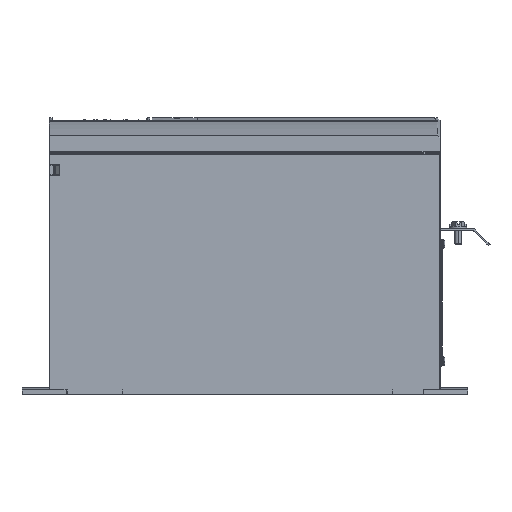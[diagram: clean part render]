
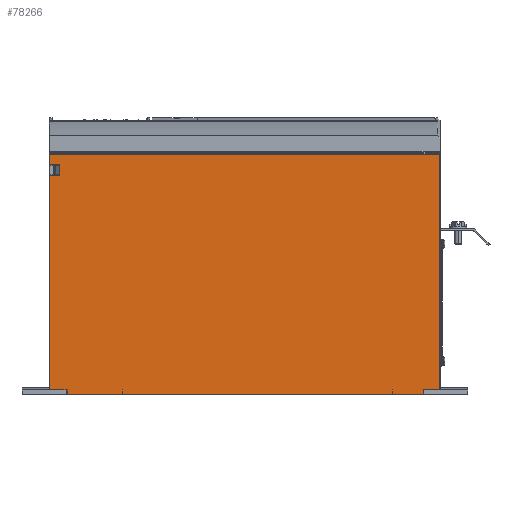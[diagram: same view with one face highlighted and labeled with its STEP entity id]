
A CAD part, left-side view. The second image highlights one B-rep face of the part: STEP entity #78266.
In plain terms, the highlighted planar face has unit normal (-1, 0, 0).
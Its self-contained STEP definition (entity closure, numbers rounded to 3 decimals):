
#2523=DIRECTION('',(0.,0.,1.));
#2524=VECTOR('',#2523,210.882);
#2525=CARTESIAN_POINT('',(-82.5,-174.5,3.768));
#2526=LINE('',#2525,#2524);
#2574=DIRECTION('',(0.,-1.,0.));
#2575=VECTOR('',#2574,14.95);
#2576=CARTESIAN_POINT('',(-82.5,-159.55,3.768));
#2577=LINE('',#2576,#2575);
#19614=DIRECTION('',(0.,-1.,0.));
#19615=VECTOR('',#19614,14.68);
#19616=CARTESIAN_POINT('',(-82.493,174.75,3.769));
#19617=LINE('',#19616,#19615);
#19628=DIRECTION('',(0.,0.,-1.));
#19629=VECTOR('',#19628,192.181);
#19630=CARTESIAN_POINT('',(-82.5,174.75,195.95));
#19631=LINE('',#19630,#19629);
#19807=DIRECTION('',(0.,-1.,0.));
#19808=VECTOR('',#19807,8.146);
#19809=CARTESIAN_POINT('',(-82.5,174.75,205.45));
#19810=LINE('',#19809,#19808);
#19853=DIRECTION('',(0.,0.,-1.));
#19854=VECTOR('',#19853,9.2);
#19855=CARTESIAN_POINT('',(-82.5,174.75,214.65));
#19856=LINE('',#19855,#19854);
#19891=DIRECTION('',(0.,1.,0.));
#19892=VECTOR('',#19891,349.25);
#19893=CARTESIAN_POINT('',(-82.5,-174.5,214.65));
#19894=LINE('',#19893,#19892);
#19978=CARTESIAN_POINT('',(-82.5,165.896,
204.95));
#19979=CARTESIAN_POINT('',(-82.5,165.896,
204.988));
#19980=CARTESIAN_POINT('',(-82.5,165.908,
205.064));
#19981=CARTESIAN_POINT('',(-82.5,165.967,
205.179));
#19982=CARTESIAN_POINT('',(-82.5,166.069,
205.285));
#19983=CARTESIAN_POINT('',(-82.5,166.209,
205.372));
#19984=CARTESIAN_POINT('',(-82.5,166.388,
205.433));
#19985=CARTESIAN_POINT('',(-82.5,166.528,
205.45));
#19986=CARTESIAN_POINT('',(-82.5,166.604,205.45));
#19991=DIRECTION('',(0.,0.,-1.));
#19992=VECTOR('',#19991,3.768);
#19993=CARTESIAN_POINT('',(-82.5,-159.55,3.768));
#19994=LINE('',#19993,#19992);
#19998=DIRECTION('',(0.,1.,0.));
#19999=VECTOR('',#19998,26.961);
#20000=CARTESIAN_POINT('',(-82.5,-159.55,0.));
#20001=LINE('',#20000,#19999);
#20005=DIRECTION('',(0.,0.,-1.));
#20006=VECTOR('',#20005,3.768);
#20007=CARTESIAN_POINT('',(-82.5,109.589,3.768));
#20008=LINE('',#20007,#20006);
#20012=DIRECTION('',(0.,1.,0.));
#20013=VECTOR('',#20012,49.567);
#20014=CARTESIAN_POINT('',(-82.5,109.589,0.));
#20015=LINE('',#20014,#20013);
#20026=DIRECTION('',(0.,0.,-1.));
#20027=VECTOR('',#20026,8.5);
#20028=CARTESIAN_POINT('',(-82.5,165.896,
204.95));
#20029=LINE('',#20028,#20027);
#20102=CARTESIAN_POINT('',(-82.5,165.896,
196.45));
#20103=CARTESIAN_POINT('',(-82.5,165.896,
196.413));
#20104=CARTESIAN_POINT('',(-82.5,165.908,
196.339));
#20105=CARTESIAN_POINT('',(-82.5,165.965,
196.223));
#20106=CARTESIAN_POINT('',(-82.5,166.066,
196.117));
#20107=CARTESIAN_POINT('',(-82.5,166.207,
196.029));
#20108=CARTESIAN_POINT('',(-82.5,166.385,
195.967));
#20109=CARTESIAN_POINT('',(-82.5,166.527,
195.95));
#20110=CARTESIAN_POINT('',(-82.5,166.604,195.95));
#20115=DIRECTION('',(0.,1.,0.));
#20116=VECTOR('',#20115,8.146);
#20117=CARTESIAN_POINT('',(-82.5,166.604,195.95));
#20118=LINE('',#20117,#20116);
#20601=DIRECTION('',(-0.011,-1.,0.));
#20602=VECTOR('',#20601,0.914);
#20603=CARTESIAN_POINT('',(-82.49,160.07,3.769));
#20604=LINE('',#20603,#20602);
#20622=DIRECTION('',(0.,0.,-1.));
#20623=VECTOR('',#20622,3.768);
#20624=CARTESIAN_POINT('',(-82.5,159.156,3.768));
#20625=LINE('',#20624,#20623);
#20713=DIRECTION('',(0.,-1.,0.));
#20714=VECTOR('',#20713,0.5);
#20715=CARTESIAN_POINT('',(-82.5,109.589,3.768));
#20716=LINE('',#20715,#20714);
#20727=DIRECTION('',(0.,-1.,0.));
#20728=VECTOR('',#20727,0.5);
#20729=CARTESIAN_POINT('',(-82.5,-132.089,3.768));
#20730=LINE('',#20729,#20728);
#20776=DIRECTION('',(0.,0.,-1.));
#20777=VECTOR('',#20776,3.775);
#20778=CARTESIAN_POINT('',(-82.5,109.089,3.768));
#20779=LINE('',#20778,#20777);
#20783=DIRECTION('',(0.,-1.,0.));
#20784=VECTOR('',#20783,241.178);
#20785=CARTESIAN_POINT('',(-82.5,109.089,-0.007));
#20786=LINE('',#20785,#20784);
#20811=DIRECTION('',(0.,0.,1.));
#20812=VECTOR('',#20811,3.775);
#20813=CARTESIAN_POINT('',(-82.5,-132.089,-0.007));
#20814=LINE('',#20813,#20812);
#20846=DIRECTION('',(0.,0.,-1.));
#20847=VECTOR('',#20846,3.768);
#20848=CARTESIAN_POINT('',(-82.5,-132.589,3.768));
#20849=LINE('',#20848,#20847);
#54405=CARTESIAN_POINT('',(-82.5,165.896,
204.95));
#54406=CARTESIAN_POINT('',(-82.5,165.896,
196.45));
#54407=VERTEX_POINT('',#54405);
#54408=VERTEX_POINT('',#54406);
#54409=VERTEX_POINT('',#19986);
#54410=CARTESIAN_POINT('',(-82.5,174.75,205.45));
#54411=VERTEX_POINT('',#54410);
#54412=CARTESIAN_POINT('',(-82.5,174.75,214.65));
#54413=VERTEX_POINT('',#54412);
#54414=CARTESIAN_POINT('',(-82.5,-174.5,214.65));
#54415=VERTEX_POINT('',#54414);
#54416=CARTESIAN_POINT('',(-82.5,-174.5,3.768));
#54417=VERTEX_POINT('',#54416);
#54418=CARTESIAN_POINT('',(-82.5,-159.55,3.768));
#54419=VERTEX_POINT('',#54418);
#54420=CARTESIAN_POINT('',(-82.5,-159.55,0.));
#54421=VERTEX_POINT('',#54420);
#54422=CARTESIAN_POINT('',(-82.5,-132.589,0.));
#54423=VERTEX_POINT('',#54422);
#54424=CARTESIAN_POINT('',(-82.5,-132.589,3.768));
#54425=VERTEX_POINT('',#54424);
#54426=CARTESIAN_POINT('',(-82.5,-132.089,3.768));
#54427=VERTEX_POINT('',#54426);
#54428=CARTESIAN_POINT('',(-82.5,-132.089,-0.007));
#54429=VERTEX_POINT('',#54428);
#54430=CARTESIAN_POINT('',(-82.5,109.089,-0.007));
#54431=VERTEX_POINT('',#54430);
#54432=CARTESIAN_POINT('',(-82.5,109.089,3.768));
#54433=VERTEX_POINT('',#54432);
#54434=CARTESIAN_POINT('',(-82.5,109.589,3.768));
#54435=VERTEX_POINT('',#54434);
#54436=CARTESIAN_POINT('',(-82.5,109.589,0.));
#54437=VERTEX_POINT('',#54436);
#54438=CARTESIAN_POINT('',(-82.5,159.156,0.));
#54439=VERTEX_POINT('',#54438);
#54440=CARTESIAN_POINT('',(-82.5,159.156,3.768));
#54441=VERTEX_POINT('',#54440);
#54442=CARTESIAN_POINT('',(-82.5,174.75,195.95));
#54443=CARTESIAN_POINT('',(-82.493,174.75,3.769));
#54444=VERTEX_POINT('',#54442);
#54445=VERTEX_POINT('',#54443);
#54446=CARTESIAN_POINT('',(-82.5,166.604,195.95));
#54447=VERTEX_POINT('',#54446);
#54522=CARTESIAN_POINT('',(-82.49,160.07,3.769));
#54523=VERTEX_POINT('',#54522);
#78220=CARTESIAN_POINT('',(-82.5,-175.,3.768));
#78221=DIRECTION('',(-1.,0.,0.));
#78222=DIRECTION('',(0.,0.,1.));
#78223=AXIS2_PLACEMENT_3D('',#78220,#78221,#78222);
#78224=PLANE('',#78223);
#78226=ORIENTED_EDGE('',*,*,#78225,.F.);
#78228=ORIENTED_EDGE('',*,*,#78227,.T.);
#78229=ORIENTED_EDGE('',*,*,#78092,.F.);
#78230=ORIENTED_EDGE('',*,*,#78121,.F.);
#78231=ORIENTED_EDGE('',*,*,#78148,.F.);
#78232=ORIENTED_EDGE('',*,*,#61797,.F.);
#78233=ORIENTED_EDGE('',*,*,#61828,.F.);
#78235=ORIENTED_EDGE('',*,*,#78234,.T.);
#78237=ORIENTED_EDGE('',*,*,#78236,.T.);
#78239=ORIENTED_EDGE('',*,*,#78238,.F.);
#78241=ORIENTED_EDGE('',*,*,#78240,.F.);
#78243=ORIENTED_EDGE('',*,*,#78242,.F.);
#78245=ORIENTED_EDGE('',*,*,#78244,.F.);
#78247=ORIENTED_EDGE('',*,*,#78246,.F.);
#78249=ORIENTED_EDGE('',*,*,#78248,.F.);
#78251=ORIENTED_EDGE('',*,*,#78250,.T.);
#78253=ORIENTED_EDGE('',*,*,#78252,.T.);
#78255=ORIENTED_EDGE('',*,*,#78254,.F.);
#78257=ORIENTED_EDGE('',*,*,#78256,.F.);
#78258=ORIENTED_EDGE('',*,*,#77898,.F.);
#78259=ORIENTED_EDGE('',*,*,#77921,.F.);
#78261=ORIENTED_EDGE('',*,*,#78260,.F.);
#78263=ORIENTED_EDGE('',*,*,#78262,.F.);
#78264=EDGE_LOOP('',(#78226,#78228,#78229,#78230,#78231,#78232,#78233,#78235,
#78237,#78239,#78241,#78243,#78245,#78247,#78249,#78251,#78253,#78255,#78257,
#78258,#78259,#78261,#78263));
#78265=FACE_OUTER_BOUND('',#78264,.F.);
#19987=B_SPLINE_CURVE_WITH_KNOTS('',3,(#19978,#19979,#19980,#19981,#19982,
#19983,#19984,#19985,#19986),.UNSPECIFIED.,.F.,.F.,(4,1,1,1,1,1,4),(0.,
0.167,0.333,0.5,0.667,0.833,
1.),.UNSPECIFIED.);
#20111=B_SPLINE_CURVE_WITH_KNOTS('',3,(#20102,#20103,#20104,#20105,#20106,
#20107,#20108,#20109,#20110),.UNSPECIFIED.,.F.,.F.,(4,1,1,1,1,1,4),(0.,
0.167,0.333,0.5,0.667,0.833,
1.),.UNSPECIFIED.);
#61797=EDGE_CURVE('',#54417,#54415,#2526,.T.);
#61828=EDGE_CURVE('',#54419,#54417,#2577,.T.);
#77898=EDGE_CURVE('',#54445,#54523,#19617,.T.);
#77921=EDGE_CURVE('',#54444,#54445,#19631,.T.);
#78092=EDGE_CURVE('',#54411,#54409,#19810,.T.);
#78121=EDGE_CURVE('',#54413,#54411,#19856,.T.);
#78148=EDGE_CURVE('',#54415,#54413,#19894,.T.);
#78225=EDGE_CURVE('',#54407,#54408,#20029,.T.);
#78227=EDGE_CURVE('',#54407,#54409,#19987,.T.);
#78234=EDGE_CURVE('',#54419,#54421,#19994,.T.);
#78236=EDGE_CURVE('',#54421,#54423,#20001,.T.);
#78238=EDGE_CURVE('',#54425,#54423,#20849,.T.);
#78240=EDGE_CURVE('',#54427,#54425,#20730,.T.);
#78242=EDGE_CURVE('',#54429,#54427,#20814,.T.);
#78244=EDGE_CURVE('',#54431,#54429,#20786,.T.);
#78246=EDGE_CURVE('',#54433,#54431,#20779,.T.);
#78248=EDGE_CURVE('',#54435,#54433,#20716,.T.);
#78250=EDGE_CURVE('',#54435,#54437,#20008,.T.);
#78252=EDGE_CURVE('',#54437,#54439,#20015,.T.);
#78254=EDGE_CURVE('',#54441,#54439,#20625,.T.);
#78256=EDGE_CURVE('',#54523,#54441,#20604,.T.);
#78260=EDGE_CURVE('',#54447,#54444,#20118,.T.);
#78262=EDGE_CURVE('',#54408,#54447,#20111,.T.);
#78266=ADVANCED_FACE('',(#78265),#78224,.T.);
